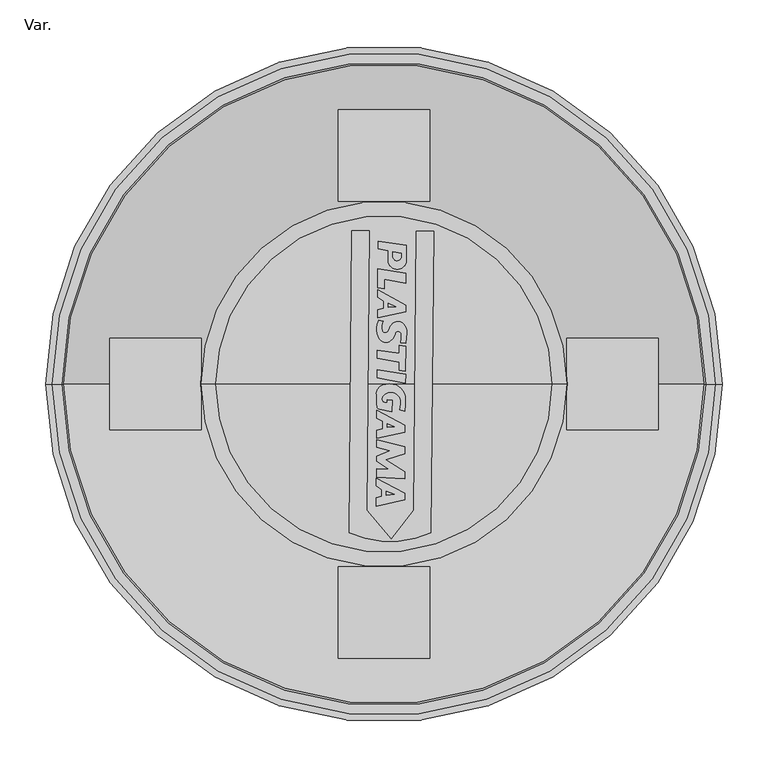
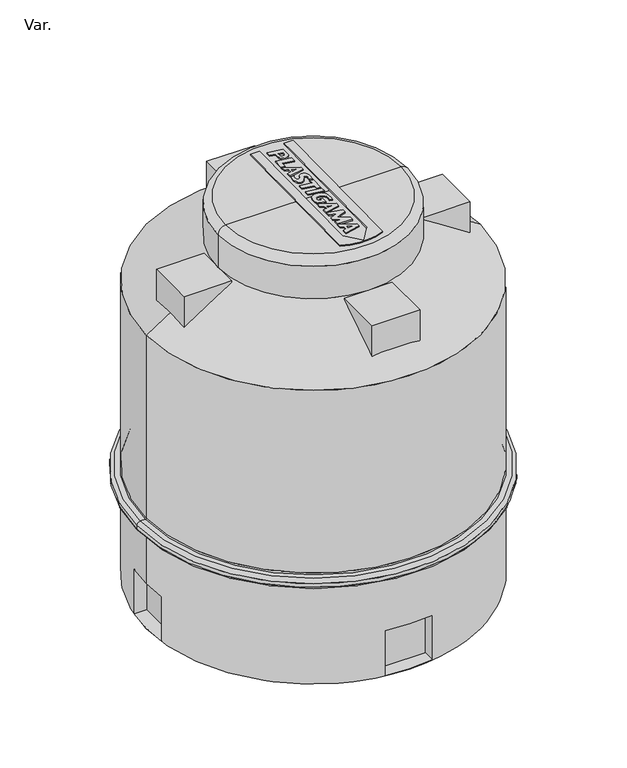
"""IFC4 building model written with IfcOpenShell, lengths in millimetres: pipe fitting geometry, PlastigamaWavin_Unionesdetubería_TanqueBotella : Var.."""

from ifc_helpers import new_model, si_unit, point, frame, frame_2d, origin, place, context, project, spatial, polyline, circle_curve, ellipse_curve, trimmed, segment, composite_curve, outline, extrude, source, transform, mapped, element, save
from ifc_brep_helpers import plane_surface, cylinder_surface, revolved_surface, advanced_brep


def var_815d262b(model_context):
    return source(origin(), model_context, "Body", "SolidModel", [
        extrude(outline(composite_curve([segment(polyline([(32.4747074, -138.424011), (35.3014453, 167.0197927), (54.4298084, 167.0197927), (51.3783639, -162.7047401)]), True, "CONTINUOUS"), segment(trimmed(circle_curve(frame_2d((6.6640502, -63.4623609)), 108.8504464), [point((51.3783639, -162.7047401))], [point((-38.0502635, -162.7047401))], False, "CARTESIAN"), True, "CONTINUOUS"), segment(polyline([(-38.0502635, -162.7047401), (-34.992778, 167.6725524), (-16.1042943, 167.6725524), (-18.9339442, -138.0859051), (7.8242818, -169.975117), (32.4747074, -138.424011)]), True, "CONTINUOUS")], self_intersect=False)), frame((0.0, 0.0, 836.0), z_axis=(0.0, 0.0, 1.0), x_axis=(1.0, 0.0, 0.0)), (0.0, 0.0, 1.0), 2.5),
        extrude(outline(composite_curve([segment(polyline([(24.5685364, 151.8267489), (24.5685364, 135.4303671)]), True, "CONTINUOUS"), segment(trimmed(circle_curve(frame_2d((14.5646219, 135.4303671)), 10.0039144), [point((24.5685364, 135.4303671))], [point((4.5607075, 135.4303671))], False, "CARTESIAN"), True, "CONTINUOUS"), segment(polyline([(4.5607075, 135.4303671), (4.5607075, 145.7825474), (-6.2566115, 147.8852212), (-6.2566115, 156.1589409), (24.5685364, 151.8267489)]), True, "CONTINUOUS")], self_intersect=False), holes=[composite_curve([segment(polyline([(9.7690258, 144.7701529), (9.7690258, 139.450123)]), True, "CONTINUOUS"), segment(trimmed(circle_curve(frame_2d((14.3282276, 139.450123)), 4.5592018), [point((9.7690258, 139.450123))], [point((18.7108136, 138.1934367))], True, "CARTESIAN"), True, "CONTINUOUS"), segment(polyline([(18.7108136, 138.1934367), (18.7108136, 143.0320454), (9.7690258, 144.7701529)]), True, "CONTINUOUS")], self_intersect=False)]), frame((0.0, 0.0, 836.0), z_axis=(0.0, 0.0, 1.0), x_axis=(1.0, 0.0, 0.0)), (0.0, 0.0, 1.0), 2.5),
        extrude(outline(polyline([(24.1318629, 120.9825093), (24.1318629, 110.0829641), (0.3905076, 114.3653814), (0.3905076, 103.8830855), (-6.6303012, 104.9950724), (-6.6303012, 125.8547574), (24.1318629, 120.9825093)])), frame((0.0, 0.0, 836.0), z_axis=(0.0, 0.0, 1.0), x_axis=(1.0, 0.0, 0.0)), (0.0, 0.0, 1.0), 2.5),
        extrude(outline(polyline([(24.1318629, 78.968804), (-6.9015555, 72.3724473), (-6.9015555, 81.1165825), (-0.0043041, 82.9646954), (-0.0043041, 90.4484954), (-6.9015555, 94.9276228), (-6.9015555, 102.9855761), (24.1318629, 86.2978072), (24.1318629, 78.968804)]), holes=[polyline([(4.8936263, 83.6618956), (13.073565, 84.5216418), (4.8936263, 88.2513609), (4.8936263, 83.6618956)])]), frame((0.0, 0.0, 836.0), z_axis=(0.0, 0.0, 1.0), x_axis=(1.0, 0.0, 0.0)), (0.0, 0.0, 1.0), 2.5),
        extrude(outline(composite_curve([segment(polyline([(-5.9023372, 69.7419109), (-0.6128931, 68.8092391)]), True, "CONTINUOUS"), segment(trimmed(circle_curve(frame_2d((11.0004002, 62.0223136)), 13.4510572), [point((-0.6128931, 68.8092391))], [point((-1.9117744, 58.2531378))], True, "CARTESIAN"), True, "CONTINUOUS"), segment(trimmed(circle_curve(frame_2d((1.3618723, 59.2087436)), 3.4102706), [point((-1.9117744, 58.2531378))], [point((3.7191306, 56.7443413))], True, "CARTESIAN"), True, "CONTINUOUS"), segment(trimmed(circle_curve(frame_2d((-8.832025, 66.510856)), 15.9033429), [point((3.7191306, 56.7443413))], [point((6.1902229, 61.2908576))], True, "CARTESIAN"), True, "CONTINUOUS"), segment(trimmed(circle_curve(frame_2d((15.869203, 57.9275619)), 10.2466782), [point((6.1902229, 61.2908576))], [point((17.7959936, 67.9914524))], False, "CARTESIAN"), True, "CONTINUOUS"), segment(trimmed(circle_curve(frame_2d((12.6837302, 57.0281682)), 12.0966457), [point((17.7959936, 67.9914524))], [point((24.7343445, 55.9738761))], False, "CARTESIAN"), True, "CONTINUOUS"), segment(polyline([(24.7343445, 55.9738761), (23.7081672, 44.2446149), (18.1481866, 45.2249895), (18.7199283, 49.8814525)]), True, "CONTINUOUS"), segment(trimmed(circle_curve(frame_2d((-9.9364274, 54.0512206)), 28.9581368), [point((18.7199283, 49.8814525))], [point((19.0217095, 54.0512206))], True, "CARTESIAN"), True, "CONTINUOUS"), segment(trimmed(circle_curve(frame_2d((15.561707, 54.0512206)), 3.4600025), [point((19.0217095, 54.0512206))], [point((12.2825342, 55.1551424))], True, "CARTESIAN"), True, "CONTINUOUS"), segment(trimmed(circle_curve(frame_2d((-9.4827824, 62.4823579)), 22.9655632), [point((12.2825342, 55.1551424))], [point((9.5298515, 49.6007102))], False, "CARTESIAN"), True, "CONTINUOUS"), segment(trimmed(circle_curve(frame_2d((2.2088483, 53.8313584)), 8.4554994), [point((9.5298515, 49.6007102))], [point((-5.1121548, 49.6007102))], False, "CARTESIAN"), True, "CONTINUOUS"), segment(trimmed(circle_curve(frame_2d((12.5372889, 59.7999392)), 20.3844826), [point((-5.1121548, 49.6007102))], [point((-7.7696247, 58.0233144))], False, "CARTESIAN"), True, "CONTINUOUS"), segment(trimmed(circle_curve(frame_2d((12.5372889, 59.7999392)), 20.3844826), [point((-7.7696247, 58.0233144))], [point((-7.1526094, 65.0758315))], False, "CARTESIAN"), True, "CONTINUOUS"), segment(polyline([(-7.1526094, 65.0758315), (-5.9023372, 69.7419109)]), True, "CONTINUOUS")], self_intersect=False)), frame((0.0, 0.0, 836.0), z_axis=(0.0, 0.0, 1.0), x_axis=(1.0, 0.0, 0.0)), (0.0, 0.0, 1.0), 2.5),
        extrude(outline(polyline([(16.6168085, 42.2317228), (23.7947889, 40.9660512), (23.0469382, 13.877438), (16.6168085, 14.7811338), (16.6168085, 23.7599924), (-7.4255223, 27.999304), (-7.4255223, 36.6737002), (16.6168085, 33.294771), (16.6168085, 42.2317228)])), frame((0.0, 0.0, 836.0), z_axis=(0.0, 0.0, 1.0), x_axis=(1.0, 0.0, 0.0)), (0.0, 0.0, 1.0), 2.5),
        extrude(outline(polyline([(23.687412, 10.3336966), (23.4170843, 0.5418969), (-7.5155023, 6.5545827), (-7.5155023, 15.2757528), (23.687412, 10.3336966)])), frame((0.0, 0.0, 836.0), z_axis=(0.0, 0.0, 1.0), x_axis=(1.0, 0.0, 0.0)), (0.0, 0.0, 1.0), 2.5),
        extrude(outline(composite_curve([segment(polyline([(3.8206872, -17.3283986), (9.1525319, -17.7012375), (8.8155035, -30.2516352), (-4.5476651, -27.6540984)]), True, "CONTINUOUS"), segment(trimmed(circle_curve(frame_2d((-3.7913727, -23.7633111)), 3.96361), [point((-4.5476651, -27.6540984))], [point((-7.5255713, -25.0922071))], False, "CARTESIAN"), True, "CONTINUOUS"), segment(trimmed(circle_curve(frame_2d((9.3796238, -20.6654925)), 17.4751659), [point((-7.5255713, -25.0922071))], [point((-8.0955421, -20.6654925))], False, "CARTESIAN"), True, "CONTINUOUS"), segment(polyline([(-8.0955421, -20.6654925), (-8.0955421, -11.8719297)]), True, "CONTINUOUS"), segment(trimmed(circle_curve(frame_2d((1.1522924, -10.5722313)), 9.3387183), [point((-8.0955421, -11.8719297))], [point((-3.7964743, -2.652549))], False, "CARTESIAN"), True, "CONTINUOUS"), segment(trimmed(circle_curve(frame_2d((5.9670004, -18.2773747)), 18.424457), [point((-3.7964743, -2.652549))], [point((15.7304751, -2.652549))], False, "CARTESIAN"), True, "CONTINUOUS"), segment(trimmed(circle_curve(frame_2d((6.9047628, -16.7766412)), 16.6548245), [point((15.7304751, -2.652549))], [point((23.5595873, -16.7766412))], False, "CARTESIAN"), True, "CONTINUOUS"), segment(polyline([(23.5595873, -16.7766412), (23.5595873, -22.7998886), (22.7080417, -29.7351706), (17.1082752, -28.4423626), (18.1308758, -21.5086926)]), True, "CONTINUOUS"), segment(trimmed(circle_curve(frame_2d((9.3787095, -19.3293989)), 9.0194089), [point((18.1308758, -21.5086926))], [point((17.1771221, -14.7978982))], True, "CARTESIAN"), True, "CONTINUOUS"), segment(trimmed(circle_curve(frame_2d((7.548968, -20.3926249)), 11.1356328), [point((17.1771221, -14.7978982))], [point((-1.0576935, -13.3266715))], True, "CARTESIAN"), True, "CONTINUOUS"), segment(trimmed(circle_curve(frame_2d((2.7448695, -16.4485246)), 4.9199036), [point((-1.0576935, -13.3266715))], [point((-2.021372, -17.6685218))], True, "CARTESIAN"), True, "CONTINUOUS"), segment(trimmed(circle_curve(frame_2d((0.6122191, -17.6685218)), 2.6335912), [point((-2.021372, -17.6685218))], [point((0.2912651, -20.2824826))], True, "CARTESIAN"), True, "CONTINUOUS"), segment(polyline([(0.2912651, -20.2824826), (3.8206872, -20.7158411), (3.8206872, -17.3283986)]), True, "CONTINUOUS")], self_intersect=False)), frame((0.0, 0.0, 836.0), z_axis=(0.0, 0.0, 1.0), x_axis=(1.0, 0.0, 0.0)), (0.0, 0.0, 1.0), 2.5),
        extrude(outline(polyline([(22.7624522, -44.9538025), (22.7624522, -52.8212155), (-8.0955421, -59.3802847), (-8.0955421, -50.5721034), (-1.0917758, -49.0834069), (-1.0917758, -40.993988), (-8.0955421, -37.2700194), (-8.0955421, -28.5463158), (22.7624522, -44.9538025)]), holes=[polyline([(3.4839702, -43.4269554), (3.4839702, -47.5983555), (11.5304466, -46.842482), (3.4839702, -43.4269554)])]), frame((0.0, 0.0, 836.0), z_axis=(0.0, 0.0, 1.0), x_axis=(1.0, 0.0, 0.0)), (0.0, 0.0, 1.0), 2.5),
        extrude(outline(polyline([(22.7624522, -68.5145364), (22.7624522, -76.1380034), (2.1402035, -82.8385782), (22.7624522, -96.2308231), (22.7624522, -103.6963159), (-8.0955421, -102.079117), (-8.0955421, -92.5677674), (5.4772713, -93.2790884), (-8.0955421, -84.4648003), (-8.0955421, -78.9777392), (6.6086694, -73.3333213), (-8.0955421, -69.1169565), (-8.0955421, -60.8207743), (22.7624522, -68.5145364)])), frame((0.0, 0.0, 836.0), z_axis=(0.0, 0.0, 1.0), x_axis=(1.0, 0.0, 0.0)), (0.0, 0.0, 1.0), 2.5),
        extrude(outline(polyline([(22.5942475, -119.5772714), (22.5942475, -126.6608053), (-8.6684939, -133.8783778), (-8.6684939, -124.5307802), (-2.5027743, -123.1073117), (-2.5027743, -115.6564818), (-8.6684939, -111.6524168), (-8.6684939, -102.9545769), (22.5942475, -119.5772714)]), holes=[polyline([(11.0333356, -120.8438712), (2.5178249, -117.2292514), (2.5178249, -121.9482151), (11.0333356, -120.8438712)])]), frame((0.0, 0.0, 836.0), z_axis=(0.0, 0.0, 1.0), x_axis=(1.0, 0.0, 0.0)), (0.0, 0.0, 1.0), 2.5),
        advanced_brep(
        [(350.0, 0.0, 0.0), (-350.0, 0.0, 0.0), (-350.0, 0.0, 1.0), (-346.4101615, 50.0, 1.0), (-346.4101615, 50.0, 100.0), (-350.0, 0.0, 100.0), (-350.0, 0.0, 223.0), (350.0, 0.0, 223.0), (350.0, 0.0, 100.0), (346.4101615, 50.0, 100.0), (346.4101615, 50.0, 1.0), (350.0, 0.0, 1.0), (-50.0, 346.4101615, 100.0), (-50.0, 346.4101615, 1.0), (50.0, 346.4101615, 1.0), (50.0, 346.4101615, 100.0), (346.4101615, -50.0, 1.0), (346.4101615, -50.0, 100.0), (-346.4101615, -50.0, 100.0), (-346.4101615, -50.0, 1.0), (50.0, -346.4101615, 1.0), (-50.0, -346.4101615, 1.0), (-50.0, -346.4101615, 100.0), (50.0, -346.4101615, 100.0), (0.0, 0.0, 0.0), (350.0, 0.0, 245.3313185), (-350.0, 0.0, 245.3313185), (-350.0, 0.0, 650.0), (350.0, 0.0, 650.0), (362.6948985, 0.0, 243.0), (-362.6948985, 0.0, 243.0), (-352.3313185, 0.0, 243.0), (352.3313185, 0.0, 243.0), (370.0, 0.0, 228.0), (-370.0, 0.0, 228.0), (-370.0, 0.0, 235.6948985), (370.0, 0.0, 235.6948985), (365.0, 0.0, 223.0), (-365.0, 0.0, 223.0), (183.7748796, 0.0, 836.0), (-183.7748796, 0.0, 836.0), (0.0, 0.0, 836.0), (200.0, 0.0, 819.7748796), (-200.0, 0.0, 819.7748796), (200.0, 0.0, 748.0), (-200.0, 0.0, 748.0), (-50.0, -320.0, 1.0), (50.0, -320.0, 1.0), (50.0, -320.0, 100.0), (-50.0, -320.0, 100.0), (-50.0, 320.0, 100.0), (50.0, 320.0, 100.0), (50.0, 320.0, 1.0), (-50.0, 320.0, 1.0), (320.0, -50.0, 100.0), (320.0, -50.0, 1.0), (320.0, 50.0, 1.0), (320.0, 50.0, 100.0), (-320.0, -50.0, 100.0), (-320.0, 50.0, 100.0), (-320.0, 50.0, 1.0), (-320.0, -50.0, 1.0)],
        [
            (0, 1, circle_curve(frame((0.0, 0.0, 0.0), z_axis=(0.0, 0.0, 1.0), x_axis=(-1.0, 0.0, 0.0)), 350.0)),
            (1, 2),
            (2, 3, circle_curve(frame((0.0, 0.0, 1.0), z_axis=(0.0, 0.0, -1.0), x_axis=(-1.0, 0.0, 0.0)), 350.0)),
            (3, 4),
            (4, 5, circle_curve(frame((0.0, 0.0, 100.0), z_axis=(0.0, 0.0, 1.0), x_axis=(-1.0, 0.0, 0.0)), 350.0)),
            (5, 6),
            (6, 7, circle_curve(frame((0.0, 0.0, 223.0), z_axis=(0.0, 0.0, -1.0), x_axis=(-1.0, 0.0, 0.0)), 350.0)),
            (7, 8),
            (8, 9, circle_curve(frame((0.0, 0.0, 100.0), z_axis=(0.0, 0.0, 1.0), x_axis=(-1.0, 0.0, 0.0)), 350.0)),
            (9, 10),
            (10, 11, circle_curve(frame((0.0, 0.0, 1.0), z_axis=(0.0, 0.0, -1.0), x_axis=(-1.0, 0.0, 0.0)), 350.0)),
            (11, 0),
            (12, 13),
            (13, 14, circle_curve(frame((0.0, 0.0, 1.0), z_axis=(0.0, 0.0, -1.0), x_axis=(-1.0, 0.0, 0.0)), 350.0)),
            (14, 15),
            (15, 12, circle_curve(frame((0.0, 0.0, 100.0), z_axis=(0.0, 0.0, 1.0), x_axis=(-1.0, 0.0, 0.0)), 350.0)),
            (1, 0, circle_curve(frame((0.0, 0.0, 0.0), z_axis=(0.0, 0.0, 1.0), x_axis=(-1.0, 0.0, 0.0)), 350.0)),
            (11, 16, circle_curve(frame((0.0, 0.0, 1.0), z_axis=(0.0, 0.0, -1.0), x_axis=(-1.0, 0.0, 0.0)), 350.0)),
            (16, 17),
            (17, 8, circle_curve(frame((0.0, 0.0, 100.0), z_axis=(0.0, 0.0, 1.0), x_axis=(-1.0, 0.0, 0.0)), 350.0)),
            (7, 6, circle_curve(frame((0.0, 0.0, 223.0), z_axis=(0.0, 0.0, -1.0), x_axis=(-1.0, 0.0, 0.0)), 350.0)),
            (5, 18, circle_curve(frame((0.0, 0.0, 100.0), z_axis=(0.0, 0.0, 1.0), x_axis=(-1.0, 0.0, 0.0)), 350.0)),
            (18, 19),
            (19, 2, circle_curve(frame((0.0, 0.0, 1.0), z_axis=(0.0, 0.0, -1.0), x_axis=(-1.0, 0.0, 0.0)), 350.0)),
            (20, 21, circle_curve(frame((0.0, 0.0, 1.0), z_axis=(0.0, 0.0, -1.0), x_axis=(-1.0, 0.0, 0.0)), 350.0)),
            (21, 22),
            (22, 23, circle_curve(frame((0.0, 0.0, 100.0), z_axis=(0.0, 0.0, 1.0), x_axis=(-1.0, 0.0, 0.0)), 350.0)),
            (23, 20),
            (0, 24),
            (24, 1),
            (25, 26, circle_curve(frame((0.0, 0.0, 245.3313185), z_axis=(0.0, 0.0, 1.0), x_axis=(-1.0, 0.0, 0.0)), 350.0)),
            (26, 27),
            (27, 28, circle_curve(frame((0.0, 0.0, 650.0), z_axis=(0.0, 0.0, -1.0), x_axis=(-1.0, 0.0, 0.0)), 350.0)),
            (28, 25),
            (26, 25, circle_curve(frame((0.0, 0.0, 245.3313185), z_axis=(0.0, 0.0, 1.0), x_axis=(-1.0, 0.0, 0.0)), 350.0)),
            (28, 27, circle_curve(frame((0.0, 0.0, 650.0), z_axis=(0.0, 0.0, -1.0), x_axis=(-1.0, 0.0, 0.0)), 350.0)),
            (29, 30, circle_curve(frame((0.0, 0.0, 243.0), z_axis=(0.0, 0.0, 1.0), x_axis=(-1.0, 0.0, 0.0)), 362.6948985)),
            (30, 31),
            (31, 32, circle_curve(frame((0.0, 0.0, 243.0), z_axis=(0.0, 0.0, -1.0), x_axis=(-1.0, 0.0, 0.0)), 352.3313185)),
            (32, 29),
            (30, 29, circle_curve(frame((0.0, 0.0, 243.0), z_axis=(0.0, 0.0, 1.0), x_axis=(-1.0, 0.0, 0.0)), 362.6948985)),
            (32, 31, circle_curve(frame((0.0, 0.0, 243.0), z_axis=(0.0, 0.0, -1.0), x_axis=(-1.0, 0.0, 0.0)), 352.3313185)),
            (33, 34, circle_curve(frame((0.0, 0.0, 228.0), z_axis=(0.0, 0.0, 1.0), x_axis=(-1.0, 0.0, 0.0)), 370.0)),
            (34, 35),
            (35, 36, circle_curve(frame((0.0, 0.0, 235.6948985), z_axis=(0.0, 0.0, -1.0), x_axis=(-1.0, 0.0, 0.0)), 370.0)),
            (36, 33),
            (34, 33, circle_curve(frame((0.0, 0.0, 228.0), z_axis=(0.0, 0.0, 1.0), x_axis=(-1.0, 0.0, 0.0)), 370.0)),
            (36, 35, circle_curve(frame((0.0, 0.0, 235.6948985), z_axis=(0.0, 0.0, -1.0), x_axis=(-1.0, 0.0, 0.0)), 370.0)),
            (25, 32, circle_curve(frame((352.3313185, 0.0, 245.3313185), z_axis=(0.0, -1.0, 0.0), x_axis=(-1.0, 0.0, 0.0)), 2.3313185)),
            (31, 26, circle_curve(frame((-352.3313185, 0.0, 245.3313185), z_axis=(0.0, -1.0, 0.0), x_axis=(1.0, 0.0, 0.0)), 2.3313185)),
            (29, 36, circle_curve(frame((362.6948985, 0.0, 235.6948985), z_axis=(0.0, 1.0, 0.0), x_axis=(-1.0, 0.0, 0.0)), 7.3051015)),
            (35, 30, circle_curve(frame((-362.6948985, 0.0, 235.6948985), z_axis=(0.0, 1.0, 0.0), x_axis=(1.0, 0.0, 0.0)), 7.3051015)),
            (33, 37, circle_curve(frame((365.0, 0.0, 228.0), z_axis=(0.0, 1.0, 0.0), x_axis=(-1.0, 0.0, 0.0)), 5.0)),
            (37, 38, circle_curve(frame((0.0, 0.0, 223.0), z_axis=(0.0, 0.0, 1.0), x_axis=(-1.0, 0.0, 0.0)), 365.0)),
            (38, 34, circle_curve(frame((-365.0, 0.0, 228.0), z_axis=(0.0, 1.0, 0.0), x_axis=(1.0, 0.0, 0.0)), 5.0)),
            (38, 37, circle_curve(frame((0.0, 0.0, 223.0), z_axis=(0.0, 0.0, 1.0), x_axis=(-1.0, 0.0, 0.0)), 365.0)),
            (6, 38),
            (37, 7),
            (39, 40, circle_curve(frame((0.0, 0.0, 836.0), z_axis=(0.0, 0.0, 1.0), x_axis=(-1.0, 0.0, 0.0)), 183.7748796)),
            (40, 41),
            (41, 39),
            (40, 39, circle_curve(frame((0.0, 0.0, 836.0), z_axis=(0.0, 0.0, 1.0), x_axis=(-1.0, 0.0, 0.0)), 183.7748796)),
            (39, 42, circle_curve(frame((183.7748796, 0.0, 819.7748796), z_axis=(0.0, 1.0, 0.0), x_axis=(-1.0, 0.0, 0.0)), 16.2251204)),
            (42, 43, circle_curve(frame((0.0, 0.0, 819.7748796), z_axis=(0.0, 0.0, 1.0), x_axis=(-1.0, 0.0, 0.0)), 200.0)),
            (43, 40, circle_curve(frame((-183.7748796, 0.0, 819.7748796), z_axis=(0.0, 1.0, 0.0), x_axis=(1.0, 0.0, 0.0)), 16.2251204)),
            (43, 42, circle_curve(frame((0.0, 0.0, 819.7748796), z_axis=(0.0, 0.0, 1.0), x_axis=(-1.0, 0.0, 0.0)), 200.0)),
            (42, 44),
            (44, 45, circle_curve(frame((0.0, 0.0, 748.0), z_axis=(0.0, 0.0, 1.0), x_axis=(-1.0, 0.0, 0.0)), 200.0)),
            (45, 43),
            (45, 44, circle_curve(frame((0.0, 0.0, 748.0), z_axis=(0.0, 0.0, 1.0), x_axis=(-1.0, 0.0, 0.0)), 200.0)),
            (27, 45),
            (44, 28),
            (46, 47),
            (47, 48),
            (48, 49),
            (49, 46),
            (46, 21),
            (20, 47),
            (23, 48),
            (22, 49),
            (50, 51),
            (51, 52),
            (52, 53),
            (53, 50),
            (53, 13),
            (12, 50),
            (52, 14),
            (51, 15),
            (54, 55),
            (55, 56),
            (56, 57),
            (57, 54),
            (54, 17),
            (16, 55),
            (10, 56),
            (9, 57),
            (58, 59),
            (59, 60),
            (60, 61),
            (61, 58),
            (61, 19),
            (18, 58),
            (60, 3),
            (59, 4),
        ],
        [
            cylinder_surface(frame((0.0, 0.0, 692.0657378), z_axis=(0.0, 0.0, -1.0), x_axis=(-1.0, 0.0, 0.0)), 350.0),
            plane_surface(frame((0.0, 0.0, 0.0), z_axis=(0.0, 0.0, -1.0), x_axis=(-1.0, 0.0, 0.0))),
            plane_surface(frame((0.0, 0.0, 243.0), z_axis=(0.0, 0.0, 1.0), x_axis=(-1.0, 0.0, 0.0))),
            cylinder_surface(frame((0.0, 0.0, 692.0657378), z_axis=(0.0, 0.0, -1.0), x_axis=(-1.0, 0.0, 0.0)), 370.0),
            revolved_surface(trimmed(ellipse_curve(frame((-352.3313185, 0.0, 245.3313185), z_axis=(0.0, 1.0, 0.0), x_axis=(1.0, 0.0, 0.0)), 2.3313185, 2.3313185), [point((-350.0, 0.0, 245.3313185))], [point((-352.3313185, 0.0, 243.0))], True, "CARTESIAN"), (0.0, 0.0, 692.0657378), (0.0, 0.0, -1.0)),
            revolved_surface(trimmed(ellipse_curve(frame((-362.6948985, 0.0, 235.6948985), z_axis=(0.0, -1.0, 0.0), x_axis=(1.0, 0.0, 0.0)), 7.3051015, 7.3051015), [point((-362.6948985, 0.0, 243.0))], [point((-370.0, 0.0, 235.6948985))], True, "CARTESIAN"), (0.0, 0.0, 692.0657378), (0.0, 0.0, -1.0)),
            revolved_surface(trimmed(ellipse_curve(frame((-365.0, 0.0, 228.0), z_axis=(0.0, -1.0, 0.0), x_axis=(1.0, 0.0, 0.0)), 5.0, 5.0), [point((-370.0, 0.0, 228.0))], [point((-365.0, 0.0, 223.0))], True, "CARTESIAN"), (0.0, 0.0, 692.0657378), (0.0, 0.0, -1.0)),
            plane_surface(frame((0.0, 0.0, 223.0), z_axis=(0.0, 0.0, -1.0), x_axis=(-1.0, 0.0, 0.0))),
            plane_surface(frame((0.0, 0.0, 836.0), z_axis=(0.0, 0.0, 1.0), x_axis=(-1.0, 0.0, 0.0))),
            revolved_surface(trimmed(ellipse_curve(frame((-183.7748796, 0.0, 819.7748796), z_axis=(0.0, -1.0, 0.0), x_axis=(1.0, 0.0, 0.0)), 16.2251204, 16.2251204), [point((-183.7748796, 0.0, 836.0))], [point((-200.0, 0.0, 819.7748796))], True, "CARTESIAN"), (0.0, 0.0, 692.0657378), (0.0, 0.0, -1.0)),
            cylinder_surface(frame((0.0, 0.0, 692.0657378), z_axis=(0.0, 0.0, -1.0), x_axis=(-1.0, 0.0, 0.0)), 200.0),
            revolved_surface(polyline([(-200.0, 0.0, 748.0), (-350.0, 0.0, 650.0)]), (0.0, 0.0, 692.0657378), (0.0, 0.0, -1.0)),
            plane_surface(frame((-50.0, -320.0, 1.0), z_axis=(0.0, -1.0, 0.0), x_axis=(-1.0, 0.0, 0.0))),
            plane_surface(frame((-50.0, -1584.2701267, 1.0), z_axis=(0.0, 0.0, 1.0), x_axis=(0.0, 1.0, 0.0))),
            plane_surface(frame((50.0, -1584.2701267, 1.0), z_axis=(-1.0, 0.0, 0.0), x_axis=(0.0, 1.0, 0.0))),
            plane_surface(frame((50.0, -1584.2701267, 100.0), z_axis=(0.0, 0.0, -1.0), x_axis=(0.0, 1.0, 0.0))),
            plane_surface(frame((-50.0, -1584.2701267, 100.0), z_axis=(1.0, 0.0, 0.0), x_axis=(0.0, 1.0, 0.0))),
            plane_surface(frame((-50.0, 320.0, 1.0), z_axis=(0.0, 1.0, 0.0), x_axis=(0.0, 0.0, -1.0))),
            plane_surface(frame((-50.0, 320.0, 100.0), z_axis=(1.0, 0.0, 0.0), x_axis=(0.0, 1.0, 0.0))),
            plane_surface(frame((-50.0, 320.0, 1.0), z_axis=(0.0, 0.0, 1.0), x_axis=(0.0, 1.0, 0.0))),
            plane_surface(frame((50.0, 320.0, 1.0), z_axis=(-1.0, 0.0, 0.0), x_axis=(0.0, 1.0, 0.0))),
            plane_surface(frame((50.0, 320.0, 100.0), z_axis=(0.0, 0.0, -1.0), x_axis=(0.0, 1.0, 0.0))),
            plane_surface(frame((320.0, -50.0, 1.0), z_axis=(1.0, 0.0, 0.0), x_axis=(0.0, 0.0, 1.0))),
            plane_surface(frame((1656.4102981, -50.0, 100.0), z_axis=(0.0, 1.0, 0.0), x_axis=(-1.0, 0.0, 0.0))),
            plane_surface(frame((1656.4102981, -50.0, 1.0), z_axis=(0.0, 0.0, 1.0), x_axis=(-1.0, 0.0, 0.0))),
            plane_surface(frame((1656.4102981, 50.0, 1.0), z_axis=(0.0, -1.0, 0.0), x_axis=(-1.0, 0.0, 0.0))),
            plane_surface(frame((1656.4102981, 50.0, 100.0), z_axis=(0.0, 0.0, -1.0), x_axis=(-1.0, 0.0, 0.0))),
            plane_surface(frame((-320.0, -50.0, 1.0), z_axis=(-1.0, 0.0, 0.0), x_axis=(0.0, 0.0, -1.0))),
            plane_surface(frame((-320.0, -50.0, 100.0), z_axis=(0.0, 1.0, 0.0), x_axis=(-1.0, 0.0, 0.0))),
            plane_surface(frame((-320.0, -50.0, 1.0), z_axis=(0.0, 0.0, 1.0), x_axis=(-1.0, 0.0, 0.0))),
            plane_surface(frame((-320.0, 50.0, 1.0), z_axis=(0.0, -1.0, 0.0), x_axis=(-1.0, 0.0, 0.0))),
            plane_surface(frame((-320.0, 50.0, 100.0), z_axis=(0.0, 0.0, -1.0), x_axis=(-1.0, 0.0, 0.0))),
        ],
        [
            (0, [[1, 2, 3, 4, 5, 6, 7, 8, 9, 10, 11, 12], [13, 14, 15, 16]]),
            (0, [[17, -12, 18, 19, 20, -8, 21, -6, 22, 23, 24, -2], [25, 26, 27, 28]]),
            (1, [[-1, 29, 30]]),
            (1, [[-17, -30, -29]]),
            (0, [[31, 32, 33, 34]]),
            (0, [[-32, 35, -34, 36]]),
            (2, [[37, 38, 39, 40]]),
            (2, [[-38, 41, -40, 42]]),
            (3, [[43, 44, 45, 46]]),
            (3, [[-44, 47, -46, 48]]),
            (4, [[-31, 49, -39, 50]]),
            (4, [[-35, -50, -42, -49]]),
            (5, [[-37, 51, -45, 52]]),
            (5, [[-41, -52, -48, -51]]),
            (6, [[-43, 53, 54, 55]]),
            (6, [[-47, -55, 56, -53]]),
            (7, [[-7, 57, -54, 58]]),
            (7, [[-21, -58, -56, -57]]),
            (8, [[59, 60, 61]]),
            (8, [[-60, 62, -61]]),
            (9, [[-59, 63, 64, 65]]),
            (9, [[-62, -65, 66, -63]]),
            (10, [[-64, 67, 68, 69]]),
            (10, [[-66, -69, 70, -67]]),
            (11, [[-33, 71, -68, 72]]),
            (11, [[-36, -72, -70, -71]]),
            (12, [[73, 74, 75, 76]]),
            (13, [[-73, 77, -25, 78]]),
            (14, [[-74, -78, -28, 79]]),
            (15, [[-75, -79, -27, 80]]),
            (16, [[-76, -80, -26, -77]]),
            (17, [[81, 82, 83, 84]]),
            (18, [[-84, 85, -13, 86]]),
            (19, [[-83, 87, -14, -85]]),
            (20, [[-82, 88, -15, -87]]),
            (21, [[-81, -86, -16, -88]]),
            (22, [[89, 90, 91, 92]]),
            (23, [[-89, 93, -19, 94]]),
            (24, [[-90, -94, -18, -11, 95]]),
            (25, [[-91, -95, -10, 96]]),
            (26, [[-92, -96, -9, -20, -93]]),
            (27, [[97, 98, 99, 100]]),
            (28, [[-100, 101, -23, 102]]),
            (29, [[-99, 103, -3, -24, -101]]),
            (30, [[-98, 104, -4, -103]]),
            (31, [[-97, -102, -22, -5, -104]]),
        ],
    ),
        extrude(outline(polyline([(-50.0, 200.0), (-50.0, 300.0), (50.0, 300.0), (50.0, 200.0), (-50.0, 200.0)])), frame((0.0, 0.0, 650.0), z_axis=(0.0, 0.0, 1.0), x_axis=(1.0, 0.0, 0.0)), (0.0, 0.0, 1.0), 98.0),
        extrude(outline(polyline([(-300.0, -50.0), (-300.0, 50.0), (-200.0, 50.0), (-200.0, -50.0), (-300.0, -50.0)])), frame((0.0, 0.0, 650.0), z_axis=(0.0, 0.0, 1.0), x_axis=(1.0, 0.0, 0.0)), (0.0, 0.0, 1.0), 98.0),
        extrude(outline(polyline([(200.0, -50.0), (200.0, 50.0), (300.0, 50.0), (300.0, -50.0), (200.0, -50.0)])), frame((0.0, 0.0, 650.0), z_axis=(0.0, 0.0, 1.0), x_axis=(1.0, 0.0, 0.0)), (0.0, 0.0, 1.0), 98.0),
        extrude(outline(polyline([(-50.0, -300.0), (-50.0, -200.0), (50.0, -200.0), (50.0, -300.0), (-50.0, -300.0)])), frame((0.0, 0.0, 650.0), z_axis=(0.0, 0.0, 1.0), x_axis=(1.0, 0.0, 0.0)), (0.0, 0.0, 1.0), 98.0),
    ])


if __name__ == "__main__":
    model = new_model("IFC4")
    model_context = context("Model", 3, world=origin())
    ifc_project = project(units=[si_unit("LENGTHUNIT", "METRE", prefix="MILLI")], contexts=[model_context])
    site = spatial("IfcSite", under=ifc_project)
    building = spatial("IfcBuilding", under=site)
    placement = place(None, origin())
    var_shape = var_815d262b(model_context)
    element("IfcPipeFitting", 1, ObjectType="PlastigamaWavin_Unionesdetubería_TanqueBotella : Var.", at=placement, inside=building, context=model_context, shape_type="MappedRepresentation", body=[
        mapped(var_shape, transform((0.0, 0.0, 0.0), x_axis=(1.0, 0.0, 0.0), y_axis=(0.0, 1.0, 0.0), z_axis=(0.0, 0.0, 1.0))),
    ])
    save(model, "model.ifc")
